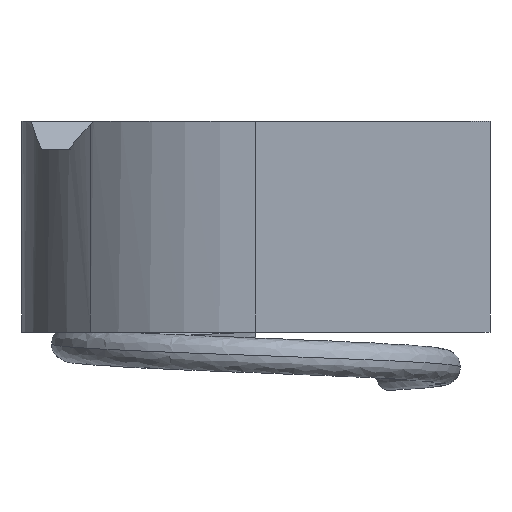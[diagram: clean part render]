
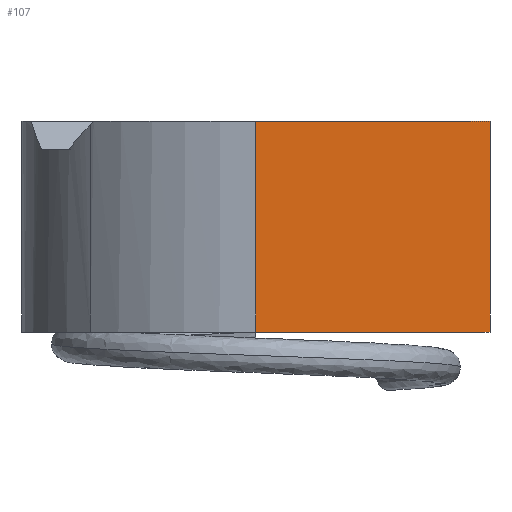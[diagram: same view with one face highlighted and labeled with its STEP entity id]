
A CAD part, left-side view. The second image highlights one B-rep face of the part: STEP entity #107.
In plain terms, the highlighted planar face has unit normal (-1, 0, 0).
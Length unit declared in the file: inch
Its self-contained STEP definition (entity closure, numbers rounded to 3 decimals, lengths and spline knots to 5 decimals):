
#107=ADVANCED_FACE('',(#213),#214,.T.);
#213=FACE_OUTER_BOUND('',#1228,.T.);
#214=PLANE('',#1229);
#1228=EDGE_LOOP('',(#1455,#1456,#1457,#1458));
#1229=AXIS2_PLACEMENT_3D('',#1459,#1460,#1461);
#1455=ORIENTED_EDGE('',*,*,#1592,.F.);
#1456=ORIENTED_EDGE('',*,*,#1579,.T.);
#1457=ORIENTED_EDGE('',*,*,#1549,.F.);
#1458=ORIENTED_EDGE('',*,*,#1590,.F.);
#1459=CARTESIAN_POINT('',(0.0,0.7874,0.35433));
#1460=DIRECTION('',(-1.0,0.0,0.0));
#1461=DIRECTION('',(0.0,0.0,-1.0));
#1549=EDGE_CURVE('',#1688,#1690,#1691,.T.);
#1579=EDGE_CURVE('',#1730,#1690,#1731,.T.);
#1590=EDGE_CURVE('',#1742,#1688,#1744,.T.);
#1592=EDGE_CURVE('',#1730,#1742,#1746,.T.);
#1688=VERTEX_POINT('',#2005);
#1690=VERTEX_POINT('',#2008);
#1691=LINE('',#2009,#2010);
#1730=VERTEX_POINT('',#2111);
#1731=LINE('',#2112,#2113);
#1742=VERTEX_POINT('',#2126);
#1744=LINE('',#2128,#2129);
#1746=LINE('',#2131,#2132);
#2005=CARTESIAN_POINT('',(0.0,0.,0.35433));
#2008=CARTESIAN_POINT('',(0.0,0.,0.));
#2009=CARTESIAN_POINT('',(0.0,0.,0.35433));
#2010=VECTOR('',#2185,0.3937);
#2111=CARTESIAN_POINT('',(0.0,0.3937,0.));
#2112=CARTESIAN_POINT('',(0.0,0.7874,0.));
#2113=VECTOR('',#2218,0.3937);
#2126=CARTESIAN_POINT('',(0.0,0.3937,0.35433));
#2128=CARTESIAN_POINT('',(0.0,0.7874,0.35433));
#2129=VECTOR('',#2233,0.3937);
#2131=CARTESIAN_POINT('',(0.0,0.3937,0.35433));
#2132=VECTOR('',#2234,0.3937);
#2185=DIRECTION('',(0.0,0.0,-1.0));
#2218=DIRECTION('',(0.0,-1.0,0.0));
#2233=DIRECTION('',(0.0,-1.0,0.0));
#2234=DIRECTION('',(0.0,0.0,1.0));
